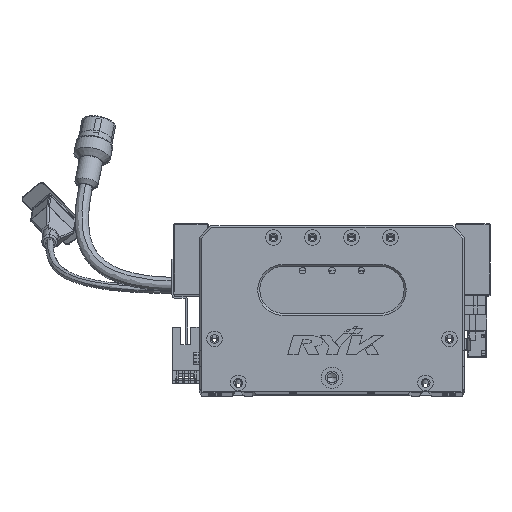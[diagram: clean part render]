
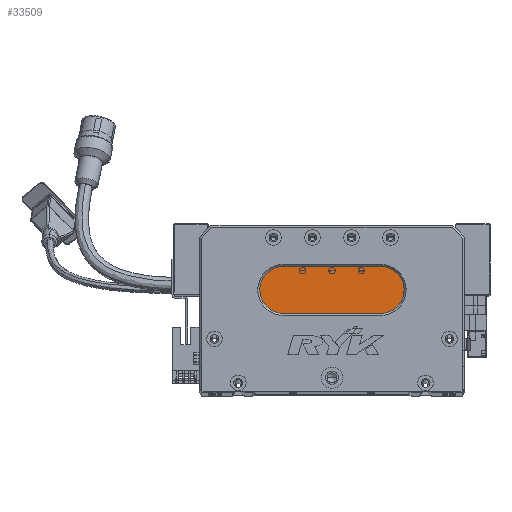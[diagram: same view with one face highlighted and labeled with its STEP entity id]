
A CAD part, top view. The second image highlights one B-rep face of the part: STEP entity #33509.
In plain terms, the highlighted planar face has unit normal (0, 0, 1) as drawn and (0, 0, -1) by its records, which use the part's own axes.
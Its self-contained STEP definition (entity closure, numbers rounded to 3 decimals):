
#49 = CARTESIAN_POINT ( 'NONE',  ( 93., 40., 13. ) ) ;
#143 = DIRECTION ( 'NONE',  ( 0., 0., -1. ) ) ;
#1309 = CARTESIAN_POINT ( 'NONE',  ( 43., 52., 13. ) ) ;
#2763 = ORIENTED_EDGE ( 'NONE', *, *, #41794, .T. ) ;
#3464 = ORIENTED_EDGE ( 'NONE', *, *, #30752, .T. ) ;
#5311 = DIRECTION ( 'NONE',  ( -1., 0., 0. ) ) ;
#6952 = DIRECTION ( 'NONE',  ( -1., 0., 0. ) ) ;
#8906 = CARTESIAN_POINT ( 'NONE',  ( 93., 52., 13. ) ) ;
#9168 = AXIS2_PLACEMENT_3D ( 'NONE', #12631, #143, #6952 ) ;
#10709 = DIRECTION ( 'NONE',  ( 1., 0., 0. ) ) ;
#12631 = CARTESIAN_POINT ( 'NONE',  ( 43., 52., 13. ) ) ;
#20517 = AXIS2_PLACEMENT_3D ( 'NONE', #8906, #78090, #85689 ) ;
#25167 = VERTEX_POINT ( 'NONE', #51273 ) ;
#26361 = VECTOR ( 'NONE', #85279, 1000. ) ;
#28626 = CARTESIAN_POINT ( 'NONE',  ( 93., 40., 13. ) ) ;
#30001 = EDGE_CURVE ( 'NONE', #62163, #79354, #50311, .T. ) ;
#30752 = EDGE_CURVE ( 'NONE', #79354, #25167, #69709, .T. ) ;
#32962 = VERTEX_POINT ( 'NONE', #89965 ) ;
#33024 = ORIENTED_EDGE ( 'NONE', *, *, #38049, .T. ) ;
#33509 = ADVANCED_FACE ( 'NONE', ( #60633 ), #36811, .T. ) ;
#34701 = DIRECTION ( 'NONE',  ( 0., 0., -1. ) ) ;
#35304 = DIRECTION ( 'NONE',  ( -1., 0., 0. ) ) ;
#36811 = PLANE ( 'NONE',  #20517 ) ;
#37087 = VERTEX_POINT ( 'NONE', #58870 ) ;
#38049 = EDGE_CURVE ( 'NONE', #37087, #32962, #57645, .T. ) ;
#39155 = CARTESIAN_POINT ( 'NONE',  ( 93., 64., 13. ) ) ;
#41794 = EDGE_CURVE ( 'NONE', #25167, #37087, #54853, .T. ) ;
#43841 = EDGE_LOOP ( 'NONE', ( #58315, #3464, #2763, #33024, #63767 ) ) ;
#47474 = DIRECTION ( 'NONE',  ( 0., 0., -1. ) ) ;
#50311 = CIRCLE ( 'NONE', #61533, 12. ) ;
#51273 = CARTESIAN_POINT ( 'NONE',  ( 43., 40., 13. ) ) ;
#54716 = CARTESIAN_POINT ( 'NONE',  ( 93., 52., 13. ) ) ;
#54853 = CIRCLE ( 'NONE', #57002, 12. ) ;
#56807 = VECTOR ( 'NONE', #10709, 1000. ) ;
#57002 = AXIS2_PLACEMENT_3D ( 'NONE', #1309, #34701, #35304 ) ;
#57645 = CIRCLE ( 'NONE', #9168, 12. ) ;
#58315 = ORIENTED_EDGE ( 'NONE', *, *, #30001, .T. ) ;
#58870 = CARTESIAN_POINT ( 'NONE',  ( 31., 52., 13. ) ) ;
#60633 = FACE_OUTER_BOUND ( 'NONE', #43841, .T. ) ;
#60781 = LINE ( 'NONE', #87182, #56807 ) ;
#61533 = AXIS2_PLACEMENT_3D ( 'NONE', #54716, #47474, #5311 ) ;
#62163 = VERTEX_POINT ( 'NONE', #39155 ) ;
#63767 = ORIENTED_EDGE ( 'NONE', *, *, #75661, .T. ) ;
#69709 = LINE ( 'NONE', #49, #26361 ) ;
#75661 = EDGE_CURVE ( 'NONE', #32962, #62163, #60781, .T. ) ;
#78090 = DIRECTION ( 'NONE',  ( 0., 0., -1. ) ) ;
#79354 = VERTEX_POINT ( 'NONE', #28626 ) ;
#85279 = DIRECTION ( 'NONE',  ( -1., 0., 0. ) ) ;
#85689 = DIRECTION ( 'NONE',  ( -1., 0., 0. ) ) ;
#87182 = CARTESIAN_POINT ( 'NONE',  ( 93., 64., 13. ) ) ;
#89965 = CARTESIAN_POINT ( 'NONE',  ( 43., 64., 13. ) ) ;
